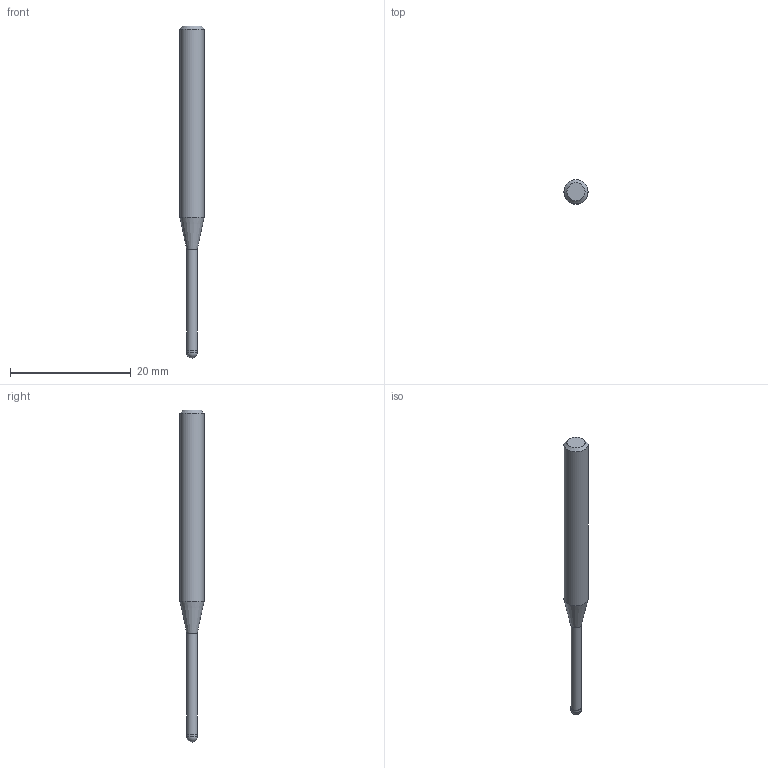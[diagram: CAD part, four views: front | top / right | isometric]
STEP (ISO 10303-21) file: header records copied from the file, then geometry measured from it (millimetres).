
FILE_DESCRIPTION((''),'2;1');
FILE_NAME('C:\Users\nsx150\AppData\Local\Temp\Mastercam 2021\ARV7HD45SN\TEMP.step','2023-06-13T16:37:05',(''),(''),'STEP Write','Mastercam 2021 ... CNC Software, Inc.','');
FILE_SCHEMA(('AUTOMOTIVE_DESIGN'));
Length unit declared in the file: millimetre
Products named in the file (1): None
Bounding box: 4 x 4 x 55 mm (x, y, z)
Volume: 475.1 mm3; surface area: 559.3 mm2
Topology: 2 solids, 2 shells, 9 faces, 14 edges, 8 vertices
Faces by surface type: plane 3, cylinder 3, cone 2, sphere 1
Full cylindrical faces by diameter (mm): 1.74 x1, 1.8 x1, 4 x1
Entity records: 211 total; most frequent: DIRECTION 36, CARTESIAN_POINT 25, AXIS2_PLACEMENT_3D 18, ORIENTED_EDGE 14, EDGE_LOOP 14, STYLED_ITEM 12, ADVANCED_FACE 9, FACE_BOUND 8
